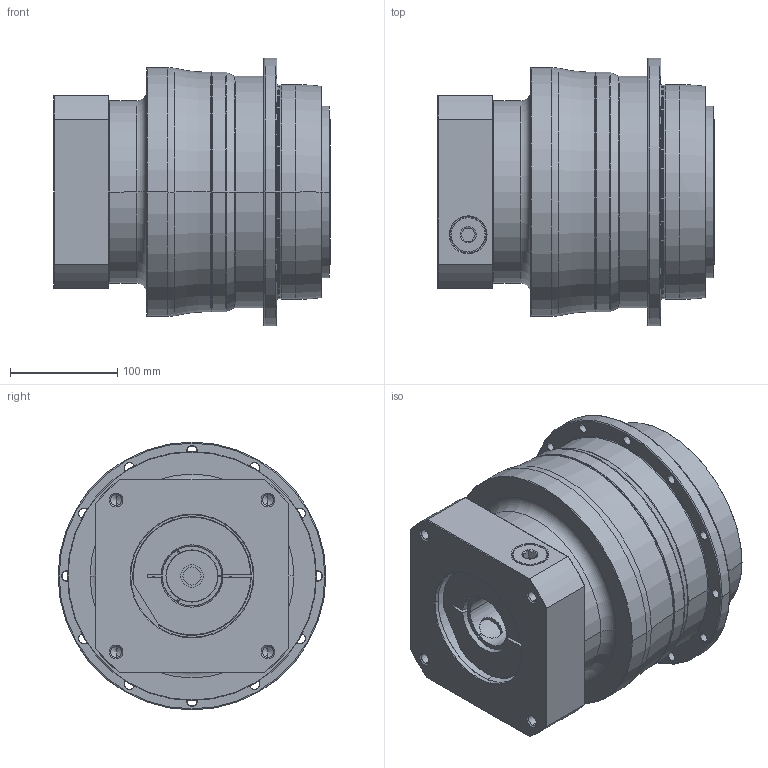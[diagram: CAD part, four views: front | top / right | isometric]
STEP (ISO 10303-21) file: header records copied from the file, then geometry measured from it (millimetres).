
FILE_DESCRIPTION((''),'2;1');
FILE_NAME('AH200_2ST_48-P0409B00101_ASM','2016-08-15T',('d01943'),(''),'PRO/ENGINEER BY PARAMETRIC TECHNOLOGY CORPORATION, 2008410','PRO/ENGINEER BY PARAMETRIC TECHNOLOGY CORPORATION, 2008410','');
FILE_SCHEMA(('CONFIG_CONTROL_DESIGN'));
Length unit declared in the file: millimetre
Products named in the file (8): P0278600003; P0359600002; P1317600601; P0409B00101; P0503B00016; P0912506001; 21711426021; AH200_2ST_48-P0409B00101_ASM
Assembly tree (7 placements, depth 2):
  AH200_2ST_48-P0409B00101_ASM
    P0278600003
    P0359600002
    P1317600601
    P0409B00101
    P0503B00016
    P0912506001
    21711426021
Bounding box: 258 x 249.5 x 249.5 mm (x, y, z)
Volume: 8068180.8 mm3; surface area: 631303 mm2
Topology: 8 solids, 8 shells, 553 faces, 1291 edges, 761 vertices
Faces by surface type: cylinder 210, cone 170, plane 97, torus 62, bspline 14
Entity records: 20462 total; most frequent: CARTESIAN_POINT 7594, DIRECTION 2897, ORIENTED_EDGE 2490, EDGE_CURVE 1245, AXIS2_PLACEMENT_3D 1223, VERTEX_POINT 761, CIRCLE 669, EDGE_LOOP 644
